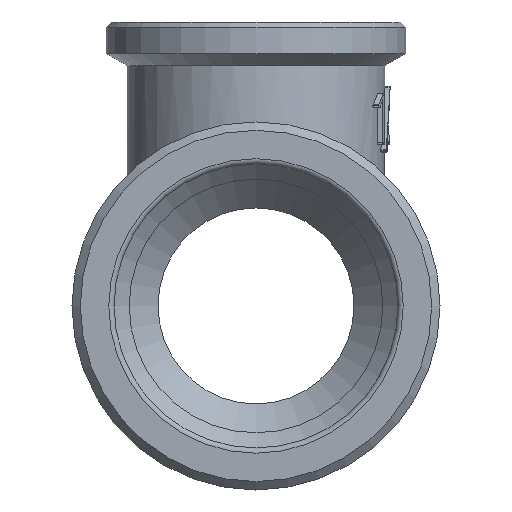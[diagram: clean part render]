
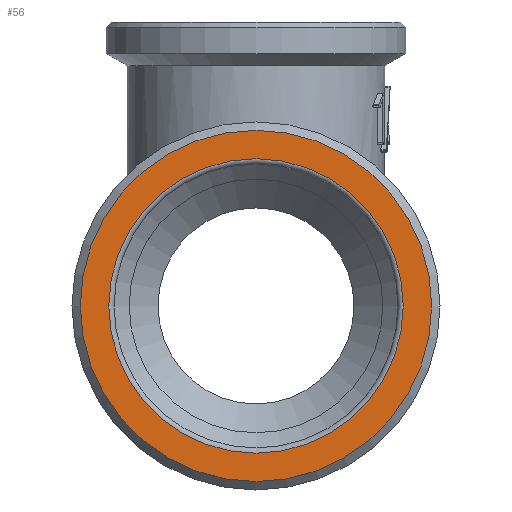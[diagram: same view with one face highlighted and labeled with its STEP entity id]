
A CAD part, front view. The second image highlights one B-rep face of the part: STEP entity #56.
In plain terms, the highlighted planar face has unit normal (0, -1, 0).
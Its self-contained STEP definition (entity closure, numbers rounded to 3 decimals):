
#56=ADVANCED_FACE('',(#485,#487),#489,.F.);
#485=FACE_BOUND('',#486,.T.);
#486=EDGE_LOOP('',(#3074));
#487=FACE_BOUND('',#488,.T.);
#488=EDGE_LOOP('',(#3075));
#489=PLANE('',#490);
#490=AXIS2_PLACEMENT_3D('',#491,#492,#493);
#491=CARTESIAN_POINT('',(0.,-28.,0.));
#492=DIRECTION('',(0.,1.,0.));
#493=DIRECTION('',(-1.,0.,0.));
#3074=ORIENTED_EDGE('',*,*,#5390,.T.);
#3075=ORIENTED_EDGE('',*,*,#5391,.T.);
#5390=EDGE_CURVE('',#6292,#6292,#6293,.T.);
#5391=EDGE_CURVE('',#6294,#6294,#6295,.F.);
#6292=VERTEX_POINT('',#7956);
#6293=CIRCLE('',#7957,16.7);
#6294=VERTEX_POINT('',#7961);
#6295=CIRCLE('',#7962,14.);
#7956=CARTESIAN_POINT('',(16.7,-28.,0.));
#7957=AXIS2_PLACEMENT_3D('',#7958,#7959,#7960);
#7958=CARTESIAN_POINT('',(0.,-28.,0.));
#7959=DIRECTION('',(0.,-1.,0.));
#7960=DIRECTION('',(1.,0.,0.));
#7961=CARTESIAN_POINT('',(14.,-28.,0.));
#7962=AXIS2_PLACEMENT_3D('',#7963,#7964,#7965);
#7963=CARTESIAN_POINT('',(0.,-28.,0.));
#7964=DIRECTION('',(0.,-1.,0.));
#7965=DIRECTION('',(1.,0.,0.));
